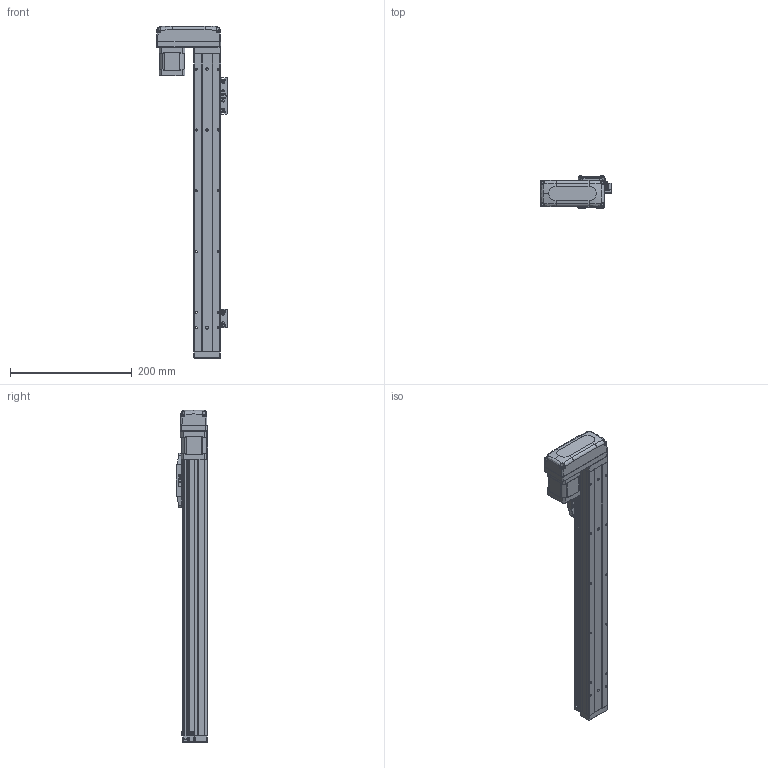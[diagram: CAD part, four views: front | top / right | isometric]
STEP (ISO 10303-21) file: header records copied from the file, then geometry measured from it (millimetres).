
FILE_DESCRIPTION (( 'STEP AP203' ), '1' );
FILE_NAME ('GTH4-350-BR-B42-C4.step', '2023-02-14T00:26:08', ( '微软用户' ), ( '微软中国' ), 'SwSTEP 2.0', 'SolidWorks 2020', '' );
FILE_SCHEMA (( 'CONFIG_CONTROL_DESIGN' ));
Length unit declared in the file: millimetre
Products named in the file (19): GBT 70.1-M3℅6; BTH40-027-1; BTH40-006; GBT96.1-2002 3×0.8; BTH50-026; BTH-M3X5X6; BTH40-022; 42CM06; GBT70.1-2000 M3×16; GBT 70.1-M2.5×6; GTH4-350-BR-B42-C4; BTH50-028; BTH40-004; BTH50-023; BTH40-013; BTH40-001-50_BTH40-001-350; BTH50-024; GBT 70.3-M3℅6; BTH40-003
Assembly tree (47 placements, depth 2):
  GTH4-350-BR-B42-C4
    BTH40-001-50_BTH40-001-350
    BTH40-003
    BTH40-006
    BTH-M3X5X6  x8
    GBT70.1-2000 M3×16  x4
    BTH50-028  x2
    BTH50-023  x3
    BTH50-024  x3
    GBT 70.1-M3℅6  x6
    GBT96.1-2002 3×0.8  x6
    BTH40-022
    GBT 70.1-M2.5×6  x2
    BTH40-004
    BTH40-013
    GBT 70.3-M3℅6  x4
    BTH40-027-1
    BTH50-026
    42CM06
Bounding box: 116.2 x 52 x 546 mm (x, y, z)
Volume: 1003517.6 mm3; surface area: 208683 mm2
Topology: 56 solids, 56 shells, 3335 faces, 7772 edges, 4646 vertices
Faces by surface type: cone 1508, plane 1076, cylinder 573, torus 124, bspline 42, sphere 12
Entity records: 77890 total; most frequent: CARTESIAN_POINT 14041, DIRECTION 13845, ORIENTED_EDGE 12190, EDGE_CURVE 6095, AXIS2_PLACEMENT_3D 5313, VERTEX_POINT 3633, VECTOR 3219, LINE 3219
